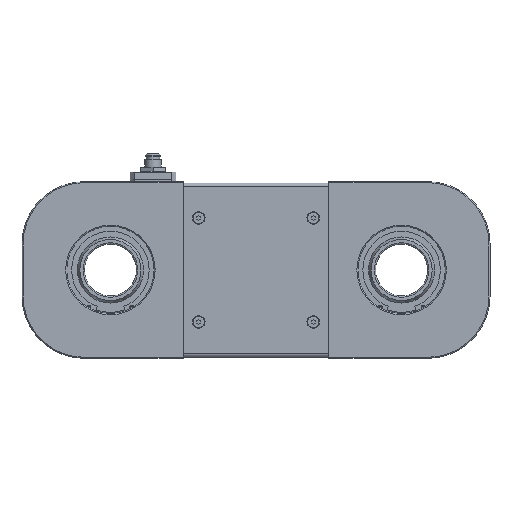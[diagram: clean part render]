
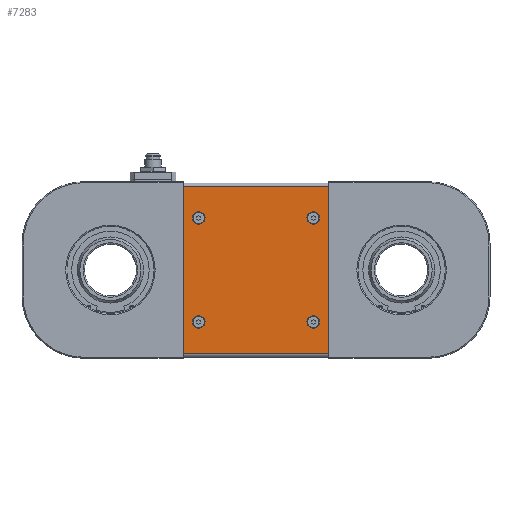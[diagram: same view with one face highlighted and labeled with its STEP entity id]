
A CAD part, top view. The second image highlights one B-rep face of the part: STEP entity #7283.
In plain terms, the highlighted planar face has unit normal (0, 0, 1) as drawn and (1, 0, 0) by its records, which use the part's own axes.
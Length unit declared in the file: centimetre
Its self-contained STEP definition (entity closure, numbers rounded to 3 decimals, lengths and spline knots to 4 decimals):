
#2589=VECTOR('',#9420,1.);
#2590=VECTOR('',#9422,1.);
#2591=VECTOR('',#9423,1.);
#2592=VECTOR('',#9424,1.);
#2905=LINE('',#12475,#2589);
#2906=LINE('',#12477,#2590);
#2907=LINE('',#12479,#2591);
#2908=LINE('',#12481,#2592);
#3453=VERTEX_POINT('',#12424);
#3455=VERTEX_POINT('',#12429);
#3457=VERTEX_POINT('',#12434);
#3459=VERTEX_POINT('',#12439);
#3470=VERTEX_POINT('',#12469);
#3473=VERTEX_POINT('',#12474);
#3474=VERTEX_POINT('',#12478);
#3475=VERTEX_POINT('',#12480);
#3738=CIRCLE('',#7921,0.3);
#3740=CIRCLE('',#7924,0.3);
#3742=CIRCLE('',#7927,0.3);
#3744=CIRCLE('',#7930,0.3);
#4359=EDGE_CURVE('',#3453,#3453,#3738,.T.);
#4361=EDGE_CURVE('',#3455,#3455,#3740,.T.);
#4363=EDGE_CURVE('',#3457,#3457,#3742,.T.);
#4365=EDGE_CURVE('',#3459,#3459,#3744,.T.);
#4382=EDGE_CURVE('',#3473,#3470,#2905,.T.);
#4383=EDGE_CURVE('',#3474,#3473,#2906,.T.);
#4384=EDGE_CURVE('',#3475,#3474,#2907,.T.);
#4385=EDGE_CURVE('',#3475,#3470,#2908,.T.);
#5651=ORIENTED_EDGE('',*,*,#4359,.T.);
#5652=ORIENTED_EDGE('',*,*,#4361,.T.);
#5653=ORIENTED_EDGE('',*,*,#4363,.T.);
#5654=ORIENTED_EDGE('',*,*,#4365,.T.);
#5655=ORIENTED_EDGE('',*,*,#4382,.F.);
#5656=ORIENTED_EDGE('',*,*,#4383,.F.);
#5657=ORIENTED_EDGE('',*,*,#4384,.F.);
#5658=ORIENTED_EDGE('',*,*,#4385,.T.);
#6306=EDGE_LOOP('',(#5651));
#6307=EDGE_LOOP('',(#5652));
#6308=EDGE_LOOP('',(#5653));
#6309=EDGE_LOOP('',(#5654));
#6310=EDGE_LOOP('',(#5655,#5656,#5657,#5658));
#6907=FACE_BOUND('',#6306,.T.);
#6908=FACE_BOUND('',#6307,.T.);
#6909=FACE_BOUND('',#6308,.T.);
#6910=FACE_BOUND('',#6309,.T.);
#6911=FACE_BOUND('',#6310,.T.);
#7283=ADVANCED_FACE('',(#6907,#6908,#6909,#6910,#6911),#12742,.T.);
#7921=AXIS2_PLACEMENT_3D('',#12423,#9370,#9371);
#7924=AXIS2_PLACEMENT_3D('',#12428,#9376,#9377);
#7927=AXIS2_PLACEMENT_3D('',#12433,#9382,#9383);
#7930=AXIS2_PLACEMENT_3D('',#12438,#9388,#9389);
#7942=AXIS2_PLACEMENT_3D('',#12476,#9421,$);
#9370=DIRECTION('',(-1.,0.,0.));
#9371=DIRECTION('',(0.,0.,-0.3));
#9376=DIRECTION('',(-1.,0.,0.));
#9377=DIRECTION('',(0.,0.,-0.3));
#9382=DIRECTION('',(-1.,0.,0.));
#9383=DIRECTION('',(0.,0.,-0.3));
#9388=DIRECTION('',(-1.,0.,0.));
#9389=DIRECTION('',(0.,0.,-0.3));
#9420=DIRECTION('',(0.,0.,1.));
#9421=DIRECTION('',(1.,0.,0.));
#9422=DIRECTION('',(0.,-1.,0.));
#9423=DIRECTION('',(0.,0.,-1.));
#9424=DIRECTION('',(0.,-1.,0.));
#12423=CARTESIAN_POINT('',(1.36,-2.5,-2.75));
#12424=CARTESIAN_POINT('',(1.36,-2.5,-3.05));
#12428=CARTESIAN_POINT('',(1.36,-2.5,2.75));
#12429=CARTESIAN_POINT('',(1.36,-2.5,2.45));
#12433=CARTESIAN_POINT('',(1.36,2.5,-2.75));
#12434=CARTESIAN_POINT('',(1.36,2.5,-3.05));
#12438=CARTESIAN_POINT('',(1.36,2.5,2.75));
#12439=CARTESIAN_POINT('',(1.36,2.5,2.45));
#12469=CARTESIAN_POINT('',(1.36,-4.03,3.5));
#12474=CARTESIAN_POINT('',(1.36,-4.03,-3.5));
#12475=CARTESIAN_POINT('',(1.36,-4.03,-3.5));
#12476=CARTESIAN_POINT('',(1.36,0.,-3.5));
#12477=CARTESIAN_POINT('',(1.36,4.18,-3.5));
#12478=CARTESIAN_POINT('',(1.36,4.03,-3.5));
#12479=CARTESIAN_POINT('',(1.36,4.03,-3.5));
#12480=CARTESIAN_POINT('',(1.36,4.03,3.5));
#12481=CARTESIAN_POINT('',(1.36,4.18,3.5));
#12742=PLANE('',#7942);
